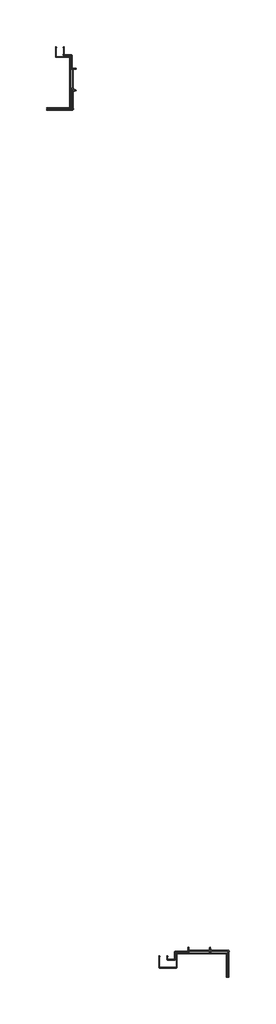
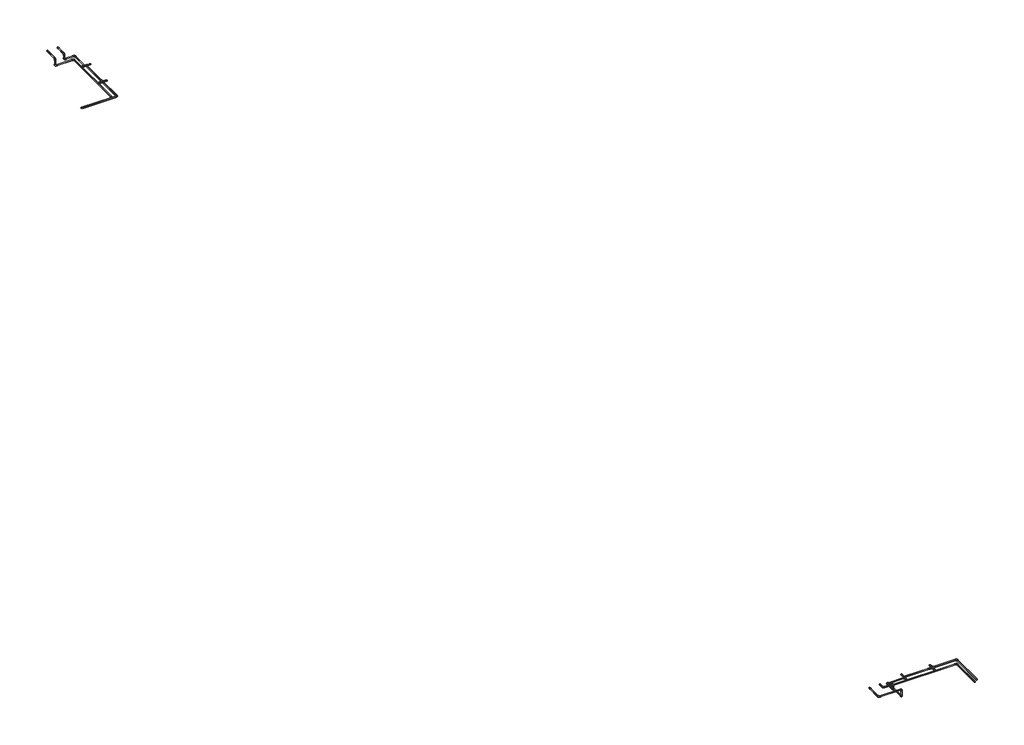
# One storey, incomplete: 34 pipe fittings, 34 pipe segments.
"""IFC4 building model written with IfcOpenShell, lengths in millimetres."""

from ifc_helpers import new_model, si_unit, point, frame, frame_2d, origin, place, context, project, spatial, circle_curve, trimmed, segment, composite_curve, outline, extrude, transform, mapped, element, save
from components import standard_92e3b147, standard_57727813, standard_102e5625, standard_b414d414, standard_2bd12d23

model = new_model("IFC4")

# Units and contexts
model_context = context("Model", 3, world=origin())
ifc_project = project(units=[si_unit("LENGTHUNIT", "METRE", prefix="MILLI")], contexts=[model_context])

# Site, building, storey
site = spatial("IfcSite", under=ifc_project)
building = spatial("IfcBuilding", under=site)
storey = spatial("IfcBuildingStorey", under=building, Name="Roof Tanks", Elevation=7700.0)

# Pipe fittings
placement = place(None, origin())
standard_shape = standard_92e3b147(model_context)
element("IfcPipeFitting", 1, ObjectType="M_Coupling Reducing - CPVC - Sch 40 : Standard", at=placement, inside=storey, context=model_context, shape_type="MappedRepresentation", body=[
    mapped(standard_shape, transform((-4202.028592, 16902.3726037, 7892.2), x_axis=(0.0, 1.0, 0.0), y_axis=(-1.0, 0.0, 0.0), z_axis=(0.0, 0.0, 1.0))),
])
element("IfcPipeFitting", 2, ObjectType="M_Coupling Reducing - CPVC - Sch 40 : Standard", at=placement, inside=storey, context=model_context, shape_type="MappedRepresentation", body=[
    mapped(standard_shape, transform((-4132.178592, 16832.5226037, 7892.2), x_axis=(1.0, 0.0, 0.0), y_axis=(0.0, 1.0, 0.0), z_axis=(0.0, 0.0, 1.0))),
])
element("IfcPipeFitting", 3, ObjectType="M_Coupling Reducing - CPVC - Sch 40 : Standard", at=placement, inside=storey, context=model_context, shape_type="MappedRepresentation", body=[
    mapped(standard_shape, transform((-4271.878592, 16832.5226037, 7892.2), x_axis=(-1.0, 0.0, 0.0), y_axis=(0.0, -1.0, 0.0), z_axis=(0.0, 0.0, 1.0))),
])
element("IfcPipeFitting", 4, ObjectType="M_Coupling Reducing - CPVC - Sch 40 : Standard", at=placement, inside=storey, context=model_context, shape_type="MappedRepresentation", body=[
    mapped(standard_shape, transform((3877.0804853, -34171.5743924, 7892.2), x_axis=(-1.0, 0.0, 0.0), y_axis=(0.0, -1.0, 0.0), z_axis=(0.0, 0.0, 1.0))),
])
element("IfcPipeFitting", 5, ObjectType="M_Coupling Reducing - CPVC - Sch 40 : Standard", at=placement, inside=storey, context=model_context, shape_type="MappedRepresentation", body=[
    mapped(standard_shape, transform((3946.9304853, -34101.7243924, 7892.2), x_axis=(0.0, 1.0, 0.0), y_axis=(-1.0, 0.0, 0.0), z_axis=(0.0, 0.0, 1.0))),
])
element("IfcPipeFitting", 6, ObjectType="M_Coupling Reducing - CPVC - Sch 40 : Standard", at=placement, inside=storey, context=model_context, shape_type="MappedRepresentation", body=[
    mapped(standard_shape, transform((3946.9304853, -34241.4243924, 7892.2), x_axis=(0.0, -1.0, 0.0), y_axis=(1.0, 0.0, 0.0), z_axis=(0.0, 0.0, 1.0))),
])
standard_2_shape = standard_57727813(model_context)
element("IfcPipeFitting", 7, ObjectType="M_Elbow - CPVC - Sch 40 : Standard", at=placement, inside=storey, context=model_context, shape_type="MappedRepresentation", body=[
    mapped(standard_2_shape, transform((-4202.028592, 15689.9865561, 7892.2), x_axis=(1.0, 0.0, 0.0), y_axis=(0.0, 1.0, 0.0), z_axis=(0.0, 0.0, 1.0))),
])
element("IfcPipeFitting", 8, ObjectType="M_Elbow - CPVC - Sch 40 : Standard", at=placement, inside=storey, context=model_context, shape_type="MappedRepresentation", body=[
    mapped(standard_2_shape, transform((5045.1617227, -34171.5743924, 7892.2), x_axis=(0.0, 1.0, 0.0), y_axis=(-1.0, 0.0, 0.0), z_axis=(0.0, 0.0, 1.0))),
])
standard_3_shape = standard_102e5625(model_context)
element("IfcPipeFitting", 9, ObjectType="M_Elbow - CPVC - Sch 40 : Standard", at=placement, inside=storey, context=model_context, shape_type="MappedRepresentation", body=[
    mapped(standard_3_shape, transform((-4258.8087037, 18123.3440498, 7892.2), x_axis=(1.0, 0.0, 0.0), y_axis=(0.0, 1.0, 0.0), z_axis=(0.0, 0.0, 1.0))),
])
element("IfcPipeFitting", 10, ObjectType="M_Elbow - CPVC - Sch 40 : Standard", at=placement, inside=storey, context=model_context, shape_type="MappedRepresentation", body=[
    mapped(standard_3_shape, transform((-4258.8087037, 18923.3440498, 7892.2), x_axis=(0.0, 1.0, 0.0), y_axis=(-1.0, 0.0, 0.0), z_axis=(0.0, 0.0, 1.0))),
])
element("IfcPipeFitting", 11, ObjectType="M_Elbow - CPVC - Sch 40 : Standard", at=placement, inside=storey, context=model_context, shape_type="MappedRepresentation", body=[
    mapped(standard_3_shape, transform((-4735.6029399, 18923.3440498, 7892.2), x_axis=(-1.0, 0.0, 0.0), y_axis=(0.0, 0.0, 1.0), z_axis=(0.0, 1.0, 0.0))),
])
element("IfcPipeFitting", 12, ObjectType="M_Elbow - CPVC - Sch 40 : Standard", at=placement, inside=storey, context=model_context, shape_type="MappedRepresentation", body=[
    mapped(standard_3_shape, transform((-4735.6029399, 18923.3440498, 8155.3), x_axis=(0.0, 0.0, 1.0), y_axis=(0.0, 1.0, 0.0), z_axis=(-1.0, 0.0, 0.0))),
])
element("IfcPipeFitting", 13, ObjectType="M_Elbow - CPVC - Sch 40 : Standard", at=placement, inside=storey, context=model_context, shape_type="MappedRepresentation", body=[
    mapped(standard_3_shape, transform((-4366.4029399, 18814.4000017, 7820.0), x_axis=(0.0, 1.0, 0.0), y_axis=(-1.0, 0.0, 0.0), z_axis=(0.0, 0.0, 1.0))),
])
element("IfcPipeFitting", 14, ObjectType="M_Elbow - CPVC - Sch 40 : Standard", at=placement, inside=storey, context=model_context, shape_type="MappedRepresentation", body=[
    mapped(standard_3_shape, transform((-4366.4029399, 15789.9865561, 7820.0), x_axis=(1.0, 0.0, 0.0), y_axis=(0.0, 1.0, 0.0), z_axis=(0.0, 0.0, 1.0))),
])
element("IfcPipeFitting", 15, ObjectType="M_Elbow - CPVC - Sch 40 : Standard", at=placement, inside=storey, context=model_context, shape_type="MappedRepresentation", body=[
    mapped(standard_3_shape, transform((-5206.4029399, 18814.4000017, 7820.0), x_axis=(-1.0, 0.0, 0.0), y_axis=(0.0, 0.0, 1.0), z_axis=(0.0, 1.0, 0.0))),
])
element("IfcPipeFitting", 16, ObjectType="M_Elbow - CPVC - Sch 40 : Standard", at=placement, inside=storey, context=model_context, shape_type="MappedRepresentation", body=[
    mapped(standard_3_shape, transform((-5206.4029399, 18814.4000017, 8155.3), x_axis=(0.0, 0.0, 1.0), y_axis=(0.0, 1.0, 0.0), z_axis=(-1.0, 0.0, 0.0))),
])
element("IfcPipeFitting", 17, ObjectType="M_Elbow - CPVC - Sch 40 : Standard", at=placement, inside=storey, context=model_context, shape_type="MappedRepresentation", body=[
    mapped(standard_3_shape, transform((-4202.028592, 18123.3440498, 7892.2), x_axis=(-1.0, 0.0, 0.0), y_axis=(0.0, -1.0, 0.0), z_axis=(0.0, 0.0, 1.0))),
])
element("IfcPipeFitting", 18, ObjectType="M_Elbow - CPVC - Sch 40 : Standard", at=placement, inside=storey, context=model_context, shape_type="MappedRepresentation", body=[
    mapped(standard_3_shape, transform((2656.1090392, -34228.354504, 7892.2), x_axis=(0.0, 1.0, 0.0), y_axis=(-1.0, 0.0, 0.0), z_axis=(0.0, 0.0, 1.0))),
])
element("IfcPipeFitting", 19, ObjectType="M_Elbow - CPVC - Sch 40 : Standard", at=placement, inside=storey, context=model_context, shape_type="MappedRepresentation", body=[
    mapped(standard_3_shape, transform((1856.1090392, -34228.354504, 7892.2), x_axis=(-1.0, 0.0, 0.0), y_axis=(0.0, -1.0, 0.0), z_axis=(0.0, 0.0, 1.0))),
])
element("IfcPipeFitting", 20, ObjectType="M_Elbow - CPVC - Sch 40 : Standard", at=placement, inside=storey, context=model_context, shape_type="MappedRepresentation", body=[
    mapped(standard_3_shape, transform((1856.1090392, -34705.1487402, 7892.2), x_axis=(0.0, -1.0, 0.0), y_axis=(0.0, 0.0, 1.0), z_axis=(-1.0, 0.0, 0.0))),
])
element("IfcPipeFitting", 21, ObjectType="M_Elbow - CPVC - Sch 40 : Standard", at=placement, inside=storey, context=model_context, shape_type="MappedRepresentation", body=[
    mapped(standard_3_shape, transform((1965.0530873, -35175.9487402, 7820.0), x_axis=(0.0, -1.0, 0.0), y_axis=(0.0, 0.0, 1.0), z_axis=(-1.0, 0.0, 0.0))),
])
element("IfcPipeFitting", 22, ObjectType="M_Elbow - CPVC - Sch 40 : Standard", at=placement, inside=storey, context=model_context, shape_type="MappedRepresentation", body=[
    mapped(standard_3_shape, transform((2656.1090392, -34171.5743924, 7892.2), x_axis=(0.0, -1.0, 0.0), y_axis=(1.0, 0.0, 0.0), z_axis=(0.0, 0.0, 1.0))),
])
element("IfcPipeFitting", 23, ObjectType="M_Elbow - CPVC - Sch 40 : Standard", at=placement, inside=storey, context=model_context, shape_type="MappedRepresentation", body=[
    mapped(standard_3_shape, transform((1856.1090392, -34705.1487402, 8155.3), x_axis=(0.0, 0.0, 1.0), y_axis=(-1.0, 0.0, 0.0), z_axis=(0.0, -1.0, 0.0))),
])
element("IfcPipeFitting", 24, ObjectType="M_Elbow - CPVC - Sch 40 : Standard", at=placement, inside=storey, context=model_context, shape_type="MappedRepresentation", body=[
    mapped(standard_3_shape, transform((1403.5810929, -34705.1487402, 8155.3), x_axis=(0.0, -1.0, 0.0), y_axis=(1.0, 0.0, 0.0), z_axis=(0.0, 0.0, 1.0))),
])
element("IfcPipeFitting", 25, ObjectType="M_Elbow - CPVC - Sch 40 : Standard", at=placement, inside=storey, context=model_context, shape_type="MappedRepresentation", body=[
    mapped(standard_3_shape, transform((932.7810929, -35175.9487402, 8155.3), x_axis=(0.0, -1.0, 0.0), y_axis=(1.0, 0.0, 0.0), z_axis=(0.0, 0.0, 1.0))),
])
element("IfcPipeFitting", 26, ObjectType="M_Elbow - CPVC - Sch 40 : Standard", at=placement, inside=storey, context=model_context, shape_type="MappedRepresentation", body=[
    mapped(standard_3_shape, transform((1965.0530873, -35175.9487402, 8155.3), x_axis=(0.0, 0.0, 1.0), y_axis=(-1.0, 0.0, 0.0), z_axis=(0.0, -1.0, 0.0))),
])
element("IfcPipeFitting", 27, ObjectType="M_Elbow - CPVC - Sch 40 : Standard", at=placement, inside=storey, context=model_context, shape_type="MappedRepresentation", body=[
    mapped(standard_3_shape, transform((1965.0530873, -34335.9487402, 7820.0), x_axis=(-1.0, 0.0, 0.0), y_axis=(0.0, -1.0, 0.0), z_axis=(0.0, 0.0, 1.0))),
])
element("IfcPipeFitting", 28, ObjectType="M_Elbow - CPVC - Sch 40 : Standard", at=placement, inside=storey, context=model_context, shape_type="MappedRepresentation", body=[
    mapped(standard_3_shape, transform((4953.4766944, -34335.9487402, 7820.0), x_axis=(0.0, 1.0, 0.0), y_axis=(-1.0, 0.0, 0.0), z_axis=(0.0, 0.0, 1.0))),
])
standard_4_shape = standard_b414d414(model_context)
element("IfcPipeFitting", 29, ObjectType="M_Coupling Reducing - CPVC - Sch 40 : Standard", at=placement, inside=storey, context=model_context, shape_type="MappedRepresentation", body=[
    mapped(standard_4_shape, transform((-4735.6029399, 19434.4000017, 8155.3), x_axis=(0.0, -1.0, 0.0), y_axis=(1.0, 0.0, 0.0), z_axis=(0.0, 0.0, 1.0))),
])
element("IfcPipeFitting", 30, ObjectType="M_Coupling Reducing - CPVC - Sch 40 : Standard", at=placement, inside=storey, context=model_context, shape_type="MappedRepresentation", body=[
    mapped(standard_4_shape, transform((1403.5810929, -34456.6999943, 8155.3), x_axis=(0.0, -1.0, 0.0), y_axis=(1.0, 0.0, 0.0), z_axis=(0.0, 0.0, 1.0))),
])
element("IfcPipeFitting", 31, ObjectType="M_Coupling Reducing - CPVC - Sch 40 : Standard", at=placement, inside=storey, context=model_context, shape_type="MappedRepresentation", body=[
    mapped(standard_4_shape, transform((932.7810929, -34456.6999943, 8155.3), x_axis=(0.0, -1.0, 0.0), y_axis=(1.0, 0.0, 0.0), z_axis=(0.0, 0.0, 1.0))),
])
element("IfcPipeFitting", 32, ObjectType="M_Coupling Reducing - CPVC - Sch 40 : Standard", at=placement, inside=storey, context=model_context, shape_type="MappedRepresentation", body=[
    mapped(standard_4_shape, transform((-5206.4029399, 19434.4000017, 8155.3), x_axis=(0.0, -1.0, 0.0), y_axis=(1.0, 0.0, 0.0), z_axis=(0.0, 0.0, 1.0))),
])
standard_5_shape = standard_2bd12d23(model_context)
element("IfcPipeFitting", 33, ObjectType="M_Cross - CPVC - Sch 40 : Standard", at=placement, inside=storey, context=model_context, shape_type="MappedRepresentation", body=[
    mapped(standard_5_shape, transform((-4202.028592, 16832.5226037, 7892.2), x_axis=(0.0, -1.0, 0.0), y_axis=(-1.0, 0.0, 0.0), z_axis=(0.0, 0.0, -1.0))),
])
element("IfcPipeFitting", 34, ObjectType="M_Cross - CPVC - Sch 40 : Standard", at=placement, inside=storey, context=model_context, shape_type="MappedRepresentation", body=[
    mapped(standard_5_shape, transform((3946.9304853, -34171.5743924, 7892.2), x_axis=(1.0, 0.0, 0.0), y_axis=(0.0, -1.0, 0.0), z_axis=(0.0, 0.0, -1.0))),
])

# Pipe segments
element("IfcPipeSegment", 35, ObjectType="CPVC", at=placement, inside=storey, context=model_context, shape_type="SweptSolid", body=[
    extrude(outline(composite_curve([segment(trimmed(circle_curve(frame_2d((15789.9865561, 7820.0)), 24.13), [point((15814.1165561, 7820.0))], [point((15789.9865561, 7795.87))], False, "CARTESIAN"), True, "CONTINUOUS"), segment(trimmed(circle_curve(frame_2d((15789.9865561, 7820.0)), 24.13), [point((15789.9865561, 7795.87))], [point((15765.8565561, 7820.0))], False, "CARTESIAN"), True, "CONTINUOUS"), segment(trimmed(circle_curve(frame_2d((15789.9865561, 7820.0)), 24.13), [point((15765.8565561, 7820.0))], [point((15789.9865561, 7844.13))], False, "CARTESIAN"), True, "CONTINUOUS"), segment(trimmed(circle_curve(frame_2d((15789.9865561, 7820.0)), 24.13), [point((15789.9865561, 7844.13))], [point((15814.1165561, 7820.0))], False, "CARTESIAN"), True, "CONTINUOUS")], self_intersect=False)), frame((-5768.2839899, 0.0, 0.0), z_axis=(1.0, 0.0, 0.0), x_axis=(0.0, 1.0, 0.0)), (0.0, 0.0, 1.0), 1339.1621),
])
element("IfcPipeSegment", 36, ObjectType="CPVC", at=placement, inside=storey, context=model_context, shape_type="SweptSolid", body=[
    extrude(outline(composite_curve([segment(trimmed(circle_curve(frame_2d((18123.3440498, 7892.2)), 24.13), [point((18099.2140498, 7892.2))], [point((18123.3440498, 7916.33))], False, "CARTESIAN"), True, "CONTINUOUS"), segment(trimmed(circle_curve(frame_2d((18123.3440498, 7892.2)), 24.13), [point((18123.3440498, 7916.33))], [point((18147.4740498, 7892.2))], False, "CARTESIAN"), True, "CONTINUOUS"), segment(trimmed(circle_curve(frame_2d((18123.3440498, 7892.2)), 24.13), [point((18147.4740498, 7892.2))], [point((18123.3440498, 7868.07))], False, "CARTESIAN"), True, "CONTINUOUS"), segment(trimmed(circle_curve(frame_2d((18123.3440498, 7892.2)), 24.13), [point((18123.3440498, 7868.07))], [point((18099.2140498, 7892.2))], False, "CARTESIAN"), True, "CONTINUOUS")], self_intersect=False)), frame((-4388.8086982, 0.0, 0.0), z_axis=(1.0, 0.0, 0.0), x_axis=(0.0, 1.0, 0.0)), (0.0, 0.0, 1.0), 67.2810445),
])
element("IfcPipeSegment", 37, ObjectType="CPVC", at=placement, inside=storey, context=model_context, shape_type="SweptSolid", body=[
    extrude(outline(composite_curve([segment(trimmed(circle_curve(frame_2d((7892.2, -4258.8087037)), 24.13), [point((7892.2, -4234.6787037))], [point((7916.33, -4258.8087037))], False, "CARTESIAN"), True, "CONTINUOUS"), segment(trimmed(circle_curve(frame_2d((7892.2, -4258.8087037)), 24.13), [point((7916.33, -4258.8087037))], [point((7892.2, -4282.9387037))], False, "CARTESIAN"), True, "CONTINUOUS"), segment(trimmed(circle_curve(frame_2d((7892.2, -4258.8087037)), 24.13), [point((7892.2, -4282.9387037))], [point((7868.07, -4258.8087037))], False, "CARTESIAN"), True, "CONTINUOUS"), segment(trimmed(circle_curve(frame_2d((7892.2, -4258.8087037)), 24.13), [point((7868.07, -4258.8087037))], [point((7892.2, -4234.6787037))], False, "CARTESIAN"), True, "CONTINUOUS")], self_intersect=False)), frame((0.0, 18186.0629998, 0.0), z_axis=(0.0, 1.0, 0.0), x_axis=(0.0, 0.0, 1.0)), (0.0, 0.0, 1.0), 674.5621),
])
element("IfcPipeSegment", 38, ObjectType="CPVC", at=placement, inside=storey, context=model_context, shape_type="SweptSolid", body=[
    extrude(outline(composite_curve([segment(trimmed(circle_curve(frame_2d((18923.3440498, 7892.2)), 24.13), [point((18947.4740498, 7892.2))], [point((18923.3440498, 7868.07))], False, "CARTESIAN"), True, "CONTINUOUS"), segment(trimmed(circle_curve(frame_2d((18923.3440498, 7892.2)), 24.13), [point((18923.3440498, 7868.07))], [point((18899.2140498, 7892.2))], False, "CARTESIAN"), True, "CONTINUOUS"), segment(trimmed(circle_curve(frame_2d((18923.3440498, 7892.2)), 24.13), [point((18899.2140498, 7892.2))], [point((18923.3440498, 7916.33))], False, "CARTESIAN"), True, "CONTINUOUS"), segment(trimmed(circle_curve(frame_2d((18923.3440498, 7892.2)), 24.13), [point((18923.3440498, 7916.33))], [point((18947.4740498, 7892.2))], False, "CARTESIAN"), True, "CONTINUOUS")], self_intersect=False)), frame((-4672.8839899, 0.0, 0.0), z_axis=(1.0, 0.0, 0.0), x_axis=(0.0, 1.0, 0.0)), (0.0, 0.0, 1.0), 351.3563362),
])
element("IfcPipeSegment", 39, ObjectType="CPVC", at=placement, inside=storey, context=model_context, shape_type="SweptSolid", body=[
    extrude(outline(composite_curve([segment(trimmed(circle_curve(frame_2d((8155.3, -4735.6029399)), 24.13), [point((8155.3, -4711.4729399))], [point((8179.43, -4735.6029399))], False, "CARTESIAN"), True, "CONTINUOUS"), segment(trimmed(circle_curve(frame_2d((8155.3, -4735.6029399)), 24.13), [point((8179.43, -4735.6029399))], [point((8155.3, -4759.7329399))], False, "CARTESIAN"), True, "CONTINUOUS"), segment(trimmed(circle_curve(frame_2d((8155.3, -4735.6029399)), 24.13), [point((8155.3, -4759.7329399))], [point((8131.17, -4735.6029399))], False, "CARTESIAN"), True, "CONTINUOUS"), segment(trimmed(circle_curve(frame_2d((8155.3, -4735.6029399)), 24.13), [point((8131.17, -4735.6029399))], [point((8155.3, -4711.4729399))], False, "CARTESIAN"), True, "CONTINUOUS")], self_intersect=False)), frame((0.0, 18986.0629998, 0.0), z_axis=(0.0, 1.0, 0.0), x_axis=(0.0, 0.0, 1.0)), (0.0, 0.0, 1.0), 370.5982519),
])
element("IfcPipeSegment", 40, ObjectType="CPVC", at=placement, inside=storey, context=model_context, shape_type="SweptSolid", body=[
    extrude(outline(composite_curve([segment(trimmed(circle_curve(frame_2d((-4735.6029399, 18923.3440498)), 24.13), [point((-4759.7329399, 18923.3440498))], [point((-4735.6029399, 18947.4740498))], False, "CARTESIAN"), True, "CONTINUOUS"), segment(trimmed(circle_curve(frame_2d((-4735.6029399, 18923.3440498)), 24.13), [point((-4735.6029399, 18947.4740498))], [point((-4711.4729399, 18923.3440498))], False, "CARTESIAN"), True, "CONTINUOUS"), segment(trimmed(circle_curve(frame_2d((-4735.6029399, 18923.3440498)), 24.13), [point((-4711.4729399, 18923.3440498))], [point((-4735.6029399, 18899.2140498))], False, "CARTESIAN"), True, "CONTINUOUS"), segment(trimmed(circle_curve(frame_2d((-4735.6029399, 18923.3440498)), 24.13), [point((-4735.6029399, 18899.2140498))], [point((-4759.7329399, 18923.3440498))], False, "CARTESIAN"), True, "CONTINUOUS")], self_intersect=False)), frame((0.0, 0.0, 7954.91895), z_axis=(0.0, 0.0, 1.0), x_axis=(1.0, 0.0, 0.0)), (0.0, 0.0, 1.0), 137.6621),
])
element("IfcPipeSegment", 41, ObjectType="CPVC", at=placement, inside=storey, context=model_context, shape_type="SweptSolid", body=[
    extrude(outline(composite_curve([segment(trimmed(circle_curve(frame_2d((8155.3, -5206.4029399)), 24.13), [point((8155.3, -5182.2729399))], [point((8179.43, -5206.4029399))], False, "CARTESIAN"), True, "CONTINUOUS"), segment(trimmed(circle_curve(frame_2d((8155.3, -5206.4029399)), 24.13), [point((8179.43, -5206.4029399))], [point((8155.3, -5230.5329399))], False, "CARTESIAN"), True, "CONTINUOUS"), segment(trimmed(circle_curve(frame_2d((8155.3, -5206.4029399)), 24.13), [point((8155.3, -5230.5329399))], [point((8131.17, -5206.4029399))], False, "CARTESIAN"), True, "CONTINUOUS"), segment(trimmed(circle_curve(frame_2d((8155.3, -5206.4029399)), 24.13), [point((8131.17, -5206.4029399))], [point((8155.3, -5182.2729399))], False, "CARTESIAN"), True, "CONTINUOUS")], self_intersect=False)), frame((0.0, 18877.1189517, 0.0), z_axis=(0.0, 1.0, 0.0), x_axis=(0.0, 0.0, 1.0)), (0.0, 0.0, 1.0), 479.5423),
])
element("IfcPipeSegment", 42, ObjectType="CPVC", at=placement, inside=storey, context=model_context, shape_type="SweptSolid", body=[
    extrude(outline(composite_curve([segment(trimmed(circle_curve(frame_2d((18814.4000017, 7820.0)), 24.13), [point((18790.2700017, 7820.0))], [point((18814.4000017, 7844.13))], False, "CARTESIAN"), True, "CONTINUOUS"), segment(trimmed(circle_curve(frame_2d((18814.4000017, 7820.0)), 24.13), [point((18814.4000017, 7844.13))], [point((18838.5300017, 7820.0))], False, "CARTESIAN"), True, "CONTINUOUS"), segment(trimmed(circle_curve(frame_2d((18814.4000017, 7820.0)), 24.13), [point((18838.5300017, 7820.0))], [point((18814.4000017, 7795.87))], False, "CARTESIAN"), True, "CONTINUOUS"), segment(trimmed(circle_curve(frame_2d((18814.4000017, 7820.0)), 24.13), [point((18814.4000017, 7795.87))], [point((18790.2700017, 7820.0))], False, "CARTESIAN"), True, "CONTINUOUS")], self_intersect=False)), frame((-5143.6839899, 0.0, 0.0), z_axis=(1.0, 0.0, 0.0), x_axis=(0.0, 1.0, 0.0)), (0.0, 0.0, 1.0), 714.5621),
])
element("IfcPipeSegment", 43, ObjectType="CPVC", at=placement, inside=storey, context=model_context, shape_type="SweptSolid", body=[
    extrude(outline(composite_curve([segment(trimmed(circle_curve(frame_2d((7820.0, -4366.4029399)), 24.13), [point((7820.0, -4390.5329399))], [point((7795.87, -4366.4029399))], False, "CARTESIAN"), True, "CONTINUOUS"), segment(trimmed(circle_curve(frame_2d((7820.0, -4366.4029399)), 24.13), [point((7795.87, -4366.4029399))], [point((7820.0, -4342.2729399))], False, "CARTESIAN"), True, "CONTINUOUS"), segment(trimmed(circle_curve(frame_2d((7820.0, -4366.4029399)), 24.13), [point((7820.0, -4342.2729399))], [point((7844.13, -4366.4029399))], False, "CARTESIAN"), True, "CONTINUOUS"), segment(trimmed(circle_curve(frame_2d((7820.0, -4366.4029399)), 24.13), [point((7844.13, -4366.4029399))], [point((7820.0, -4390.5329399))], False, "CARTESIAN"), True, "CONTINUOUS")], self_intersect=False)), frame((0.0, 15852.7055061, 0.0), z_axis=(0.0, 1.0, 0.0), x_axis=(0.0, 0.0, 1.0)), (0.0, 0.0, 1.0), 2898.9755456),
])
element("IfcPipeSegment", 44, ObjectType="CPVC", at=placement, inside=storey, context=model_context, shape_type="SweptSolid", body=[
    extrude(outline(composite_curve([segment(trimmed(circle_curve(frame_2d((-5206.4029399, 18814.4000017)), 24.13), [point((-5230.5329399, 18814.4000017))], [point((-5206.4029399, 18838.5300017))], False, "CARTESIAN"), True, "CONTINUOUS"), segment(trimmed(circle_curve(frame_2d((-5206.4029399, 18814.4000017)), 24.13), [point((-5206.4029399, 18838.5300017))], [point((-5182.2729399, 18814.4000017))], False, "CARTESIAN"), True, "CONTINUOUS"), segment(trimmed(circle_curve(frame_2d((-5206.4029399, 18814.4000017)), 24.13), [point((-5182.2729399, 18814.4000017))], [point((-5206.4029399, 18790.2700017))], False, "CARTESIAN"), True, "CONTINUOUS"), segment(trimmed(circle_curve(frame_2d((-5206.4029399, 18814.4000017)), 24.13), [point((-5206.4029399, 18790.2700017))], [point((-5230.5329399, 18814.4000017))], False, "CARTESIAN"), True, "CONTINUOUS")], self_intersect=False)), frame((0.0, 0.0, 7882.71895), z_axis=(0.0, 0.0, 1.0), x_axis=(1.0, 0.0, 0.0)), (0.0, 0.0, 1.0), 209.8621),
])
element("IfcPipeSegment", 45, ObjectType="CPVC", at=placement, inside=storey, context=model_context, shape_type="SweptSolid", body=[
    extrude(outline(composite_curve([segment(trimmed(circle_curve(frame_2d((18123.3440498, 7892.2)), 24.13), [point((18147.4740498, 7892.2))], [point((18123.3440498, 7868.07))], False, "CARTESIAN"), True, "CONTINUOUS"), segment(trimmed(circle_curve(frame_2d((18123.3440498, 7892.2)), 24.13), [point((18123.3440498, 7868.07))], [point((18099.2140498, 7892.2))], False, "CARTESIAN"), True, "CONTINUOUS"), segment(trimmed(circle_curve(frame_2d((18123.3440498, 7892.2)), 24.13), [point((18099.2140498, 7892.2))], [point((18123.3440498, 7916.33))], False, "CARTESIAN"), True, "CONTINUOUS"), segment(trimmed(circle_curve(frame_2d((18123.3440498, 7892.2)), 24.13), [point((18123.3440498, 7916.33))], [point((18147.4740498, 7892.2))], False, "CARTESIAN"), True, "CONTINUOUS")], self_intersect=False)), frame((-4139.309642, 0.0, 0.0), z_axis=(1.0, 0.0, 0.0), x_axis=(0.0, 1.0, 0.0)), (0.0, 0.0, 1.0), 137.2810437),
])
element("IfcPipeSegment", 46, ObjectType="CPVC", at=placement, inside=storey, context=model_context, shape_type="SweptSolid", body=[
    extrude(outline(composite_curve([segment(trimmed(circle_curve(frame_2d((7892.2, -4202.028592)), 30.1625), [point((7892.2, -4232.191092))], [point((7862.0375, -4202.028592))], False, "CARTESIAN"), True, "CONTINUOUS"), segment(trimmed(circle_curve(frame_2d((7892.2, -4202.028592)), 30.1625), [point((7862.0375, -4202.028592))], [point((7892.2, -4171.866092))], False, "CARTESIAN"), True, "CONTINUOUS"), segment(trimmed(circle_curve(frame_2d((7892.2, -4202.028592)), 30.1625), [point((7892.2, -4171.866092))], [point((7922.3625, -4202.028592))], False, "CARTESIAN"), True, "CONTINUOUS"), segment(trimmed(circle_curve(frame_2d((7892.2, -4202.028592)), 30.1625), [point((7922.3625, -4202.028592))], [point((7892.2, -4232.191092))], False, "CARTESIAN"), True, "CONTINUOUS")], self_intersect=False)), frame((0.0, 15754.2803061, 0.0), z_axis=(0.0, 1.0, 0.0), x_axis=(0.0, 0.0, 1.0)), (0.0, 0.0, 1.0), 1008.3922976),
])
element("IfcPipeSegment", 47, ObjectType="CPVC", at=placement, inside=storey, context=model_context, shape_type="SweptSolid", body=[
    extrude(outline(composite_curve([segment(trimmed(circle_curve(frame_2d((15689.9865561, 7892.2)), 30.1625), [point((15659.8240561, 7892.2))], [point((15689.9865561, 7922.3625))], False, "CARTESIAN"), True, "CONTINUOUS"), segment(trimmed(circle_curve(frame_2d((15689.9865561, 7892.2)), 30.1625), [point((15689.9865561, 7922.3625))], [point((15720.1490561, 7892.2))], False, "CARTESIAN"), True, "CONTINUOUS"), segment(trimmed(circle_curve(frame_2d((15689.9865561, 7892.2)), 30.1625), [point((15720.1490561, 7892.2))], [point((15689.9865561, 7862.0375))], False, "CARTESIAN"), True, "CONTINUOUS"), segment(trimmed(circle_curve(frame_2d((15689.9865561, 7892.2)), 30.1625), [point((15689.9865561, 7862.0375))], [point((15659.8240561, 7892.2))], False, "CARTESIAN"), True, "CONTINUOUS")], self_intersect=False)), frame((-5766.7091899, 0.0, 0.0), z_axis=(1.0, 0.0, 0.0), x_axis=(0.0, 1.0, 0.0)), (0.0, 0.0, 1.0), 1500.3868478),
])
element("IfcPipeSegment", 48, ObjectType="CPVC", at=placement, inside=storey, context=model_context, shape_type="SweptSolid", body=[
    extrude(outline(composite_curve([segment(trimmed(circle_curve(frame_2d((16832.5226037, 7892.2)), 24.13), [point((16808.3926037, 7892.2))], [point((16832.5226037, 7916.33))], False, "CARTESIAN"), True, "CONTINUOUS"), segment(trimmed(circle_curve(frame_2d((16832.5226037, 7892.2)), 24.13), [point((16832.5226037, 7916.33))], [point((16856.6526037, 7892.2))], False, "CARTESIAN"), True, "CONTINUOUS"), segment(trimmed(circle_curve(frame_2d((16832.5226037, 7892.2)), 24.13), [point((16856.6526037, 7892.2))], [point((16832.5226037, 7868.07))], False, "CARTESIAN"), True, "CONTINUOUS"), segment(trimmed(circle_curve(frame_2d((16832.5226037, 7892.2)), 24.13), [point((16832.5226037, 7868.07))], [point((16808.3926037, 7892.2))], False, "CARTESIAN"), True, "CONTINUOUS")], self_intersect=False)), frame((-4040.759842, 0.0, 0.0), z_axis=(1.0, 0.0, 0.0), x_axis=(0.0, 1.0, 0.0)), (0.0, 0.0, 1.0), 38.7312437),
])
element("IfcPipeSegment", 49, ObjectType="CPVC", at=placement, inside=storey, context=model_context, shape_type="SweptSolid", body=[
    extrude(outline(composite_curve([segment(trimmed(circle_curve(frame_2d((7892.2, -4202.028592)), 24.13), [point((7892.2, -4226.158592))], [point((7868.07, -4202.028592))], False, "CARTESIAN"), True, "CONTINUOUS"), segment(trimmed(circle_curve(frame_2d((7892.2, -4202.028592)), 24.13), [point((7868.07, -4202.028592))], [point((7892.2, -4177.898592))], False, "CARTESIAN"), True, "CONTINUOUS"), segment(trimmed(circle_curve(frame_2d((7892.2, -4202.028592)), 24.13), [point((7892.2, -4177.898592))], [point((7916.33, -4202.028592))], False, "CARTESIAN"), True, "CONTINUOUS"), segment(trimmed(circle_curve(frame_2d((7892.2, -4202.028592)), 24.13), [point((7916.33, -4202.028592))], [point((7892.2, -4226.158592))], False, "CARTESIAN"), True, "CONTINUOUS")], self_intersect=False)), frame((0.0, 16993.7913537, 0.0), z_axis=(0.0, 1.0, 0.0), x_axis=(0.0, 0.0, 1.0)), (0.0, 0.0, 1.0), 1066.8337461),
])
element("IfcPipeSegment", 50, ObjectType="CPVC", at=placement, inside=storey, context=model_context, shape_type="SweptSolid", body=[
    extrude(outline(composite_curve([segment(trimmed(circle_curve(frame_2d((16832.5226037, 7892.2)), 24.13), [point((16856.6526037, 7892.2))], [point((16832.5226037, 7868.07))], False, "CARTESIAN"), True, "CONTINUOUS"), segment(trimmed(circle_curve(frame_2d((16832.5226037, 7892.2)), 24.13), [point((16832.5226037, 7868.07))], [point((16808.3926037, 7892.2))], False, "CARTESIAN"), True, "CONTINUOUS"), segment(trimmed(circle_curve(frame_2d((16832.5226037, 7892.2)), 24.13), [point((16808.3926037, 7892.2))], [point((16832.5226037, 7916.33))], False, "CARTESIAN"), True, "CONTINUOUS"), segment(trimmed(circle_curve(frame_2d((16832.5226037, 7892.2)), 24.13), [point((16832.5226037, 7916.33))], [point((16856.6526037, 7892.2))], False, "CARTESIAN"), True, "CONTINUOUS")], self_intersect=False)), frame((-4388.8086982, 0.0, 0.0), z_axis=(1.0, 0.0, 0.0), x_axis=(0.0, 1.0, 0.0)), (0.0, 0.0, 1.0), 25.5113561),
])
element("IfcPipeSegment", 51, ObjectType="CPVC", at=placement, inside=storey, context=model_context, shape_type="SweptSolid", body=[
    extrude(outline(composite_curve([segment(trimmed(circle_curve(frame_2d((7892.2, 2656.1090392)), 24.13), [point((7892.2, 2680.2390392))], [point((7916.33, 2656.1090392))], False, "CARTESIAN"), True, "CONTINUOUS"), segment(trimmed(circle_curve(frame_2d((7892.2, 2656.1090392)), 24.13), [point((7916.33, 2656.1090392))], [point((7892.2, 2631.9790392))], False, "CARTESIAN"), True, "CONTINUOUS"), segment(trimmed(circle_curve(frame_2d((7892.2, 2656.1090392)), 24.13), [point((7892.2, 2631.9790392))], [point((7868.07, 2656.1090392))], False, "CARTESIAN"), True, "CONTINUOUS"), segment(trimmed(circle_curve(frame_2d((7892.2, 2656.1090392)), 24.13), [point((7868.07, 2656.1090392))], [point((7892.2, 2680.2390392))], False, "CARTESIAN"), True, "CONTINUOUS")], self_intersect=False)), frame((0.0, -34358.3544985, 0.0), z_axis=(0.0, 1.0, 0.0), x_axis=(0.0, 0.0, 1.0)), (0.0, 0.0, 1.0), 67.2810445),
])
element("IfcPipeSegment", 52, ObjectType="CPVC", at=placement, inside=storey, context=model_context, shape_type="SweptSolid", body=[
    extrude(outline(composite_curve([segment(trimmed(circle_curve(frame_2d((-34228.354504, 7892.2)), 24.13), [point((-34204.224504, 7892.2))], [point((-34228.354504, 7868.07))], False, "CARTESIAN"), True, "CONTINUOUS"), segment(trimmed(circle_curve(frame_2d((-34228.354504, 7892.2)), 24.13), [point((-34228.354504, 7868.07))], [point((-34252.484504, 7892.2))], False, "CARTESIAN"), True, "CONTINUOUS"), segment(trimmed(circle_curve(frame_2d((-34228.354504, 7892.2)), 24.13), [point((-34252.484504, 7892.2))], [point((-34228.354504, 7916.33))], False, "CARTESIAN"), True, "CONTINUOUS"), segment(trimmed(circle_curve(frame_2d((-34228.354504, 7892.2)), 24.13), [point((-34228.354504, 7916.33))], [point((-34204.224504, 7892.2))], False, "CARTESIAN"), True, "CONTINUOUS")], self_intersect=False)), frame((1918.8279892, 0.0, 0.0), z_axis=(1.0, 0.0, 0.0), x_axis=(0.0, 1.0, 0.0)), (0.0, 0.0, 1.0), 674.5621),
])
element("IfcPipeSegment", 53, ObjectType="CPVC", at=placement, inside=storey, context=model_context, shape_type="SweptSolid", body=[
    extrude(outline(composite_curve([segment(trimmed(circle_curve(frame_2d((7892.2, 1856.1090392)), 24.13), [point((7892.2, 1831.9790392))], [point((7868.07, 1856.1090392))], False, "CARTESIAN"), True, "CONTINUOUS"), segment(trimmed(circle_curve(frame_2d((7892.2, 1856.1090392)), 24.13), [point((7868.07, 1856.1090392))], [point((7892.2, 1880.2390392))], False, "CARTESIAN"), True, "CONTINUOUS"), segment(trimmed(circle_curve(frame_2d((7892.2, 1856.1090392)), 24.13), [point((7892.2, 1880.2390392))], [point((7916.33, 1856.1090392))], False, "CARTESIAN"), True, "CONTINUOUS"), segment(trimmed(circle_curve(frame_2d((7892.2, 1856.1090392)), 24.13), [point((7916.33, 1856.1090392))], [point((7892.2, 1831.9790392))], False, "CARTESIAN"), True, "CONTINUOUS")], self_intersect=False)), frame((0.0, -34642.4297902, 0.0), z_axis=(0.0, 1.0, 0.0), x_axis=(0.0, 0.0, 1.0)), (0.0, 0.0, 1.0), 351.3563362),
])
element("IfcPipeSegment", 54, ObjectType="CPVC", at=placement, inside=storey, context=model_context, shape_type="SweptSolid", body=[
    extrude(outline(composite_curve([segment(trimmed(circle_curve(frame_2d((1856.1090392, -34705.1487402)), 24.13), [point((1831.9790392, -34705.1487402))], [point((1856.1090392, -34681.0187402))], False, "CARTESIAN"), True, "CONTINUOUS"), segment(trimmed(circle_curve(frame_2d((1856.1090392, -34705.1487402)), 24.13), [point((1856.1090392, -34681.0187402))], [point((1880.2390392, -34705.1487402))], False, "CARTESIAN"), True, "CONTINUOUS"), segment(trimmed(circle_curve(frame_2d((1856.1090392, -34705.1487402)), 24.13), [point((1880.2390392, -34705.1487402))], [point((1856.1090392, -34729.2787402))], False, "CARTESIAN"), True, "CONTINUOUS"), segment(trimmed(circle_curve(frame_2d((1856.1090392, -34705.1487402)), 24.13), [point((1856.1090392, -34729.2787402))], [point((1831.9790392, -34705.1487402))], False, "CARTESIAN"), True, "CONTINUOUS")], self_intersect=False)), frame((0.0, 0.0, 7954.91895), z_axis=(0.0, 0.0, 1.0), x_axis=(1.0, 0.0, 0.0)), (0.0, 0.0, 1.0), 137.6621),
])
element("IfcPipeSegment", 55, ObjectType="CPVC", at=placement, inside=storey, context=model_context, shape_type="SweptSolid", body=[
    extrude(outline(composite_curve([segment(trimmed(circle_curve(frame_2d((7820.0, 1965.0530873)), 24.13), [point((7820.0, 1989.1830873))], [point((7844.13, 1965.0530873))], False, "CARTESIAN"), True, "CONTINUOUS"), segment(trimmed(circle_curve(frame_2d((7820.0, 1965.0530873)), 24.13), [point((7844.13, 1965.0530873))], [point((7820.0, 1940.9230873))], False, "CARTESIAN"), True, "CONTINUOUS"), segment(trimmed(circle_curve(frame_2d((7820.0, 1965.0530873)), 24.13), [point((7820.0, 1940.9230873))], [point((7795.87, 1965.0530873))], False, "CARTESIAN"), True, "CONTINUOUS"), segment(trimmed(circle_curve(frame_2d((7820.0, 1965.0530873)), 24.13), [point((7795.87, 1965.0530873))], [point((7820.0, 1989.1830873))], False, "CARTESIAN"), True, "CONTINUOUS")], self_intersect=False)), frame((0.0, -35113.2297902, 0.0), z_axis=(0.0, 1.0, 0.0), x_axis=(0.0, 0.0, 1.0)), (0.0, 0.0, 1.0), 714.5621),
])
element("IfcPipeSegment", 56, ObjectType="CPVC", at=placement, inside=storey, context=model_context, shape_type="SweptSolid", body=[
    extrude(outline(composite_curve([segment(trimmed(circle_curve(frame_2d((1965.0530873, -35175.9487402)), 24.13), [point((1940.9230873, -35175.9487402))], [point((1965.0530873, -35151.8187402))], False, "CARTESIAN"), True, "CONTINUOUS"), segment(trimmed(circle_curve(frame_2d((1965.0530873, -35175.9487402)), 24.13), [point((1965.0530873, -35151.8187402))], [point((1989.1830873, -35175.9487402))], False, "CARTESIAN"), True, "CONTINUOUS"), segment(trimmed(circle_curve(frame_2d((1965.0530873, -35175.9487402)), 24.13), [point((1989.1830873, -35175.9487402))], [point((1965.0530873, -35200.0787402))], False, "CARTESIAN"), True, "CONTINUOUS"), segment(trimmed(circle_curve(frame_2d((1965.0530873, -35175.9487402)), 24.13), [point((1965.0530873, -35200.0787402))], [point((1940.9230873, -35175.9487402))], False, "CARTESIAN"), True, "CONTINUOUS")], self_intersect=False)), frame((0.0, 0.0, 7882.71895), z_axis=(0.0, 0.0, 1.0), x_axis=(1.0, 0.0, 0.0)), (0.0, 0.0, 1.0), 209.8621),
])
element("IfcPipeSegment", 57, ObjectType="CPVC", at=placement, inside=storey, context=model_context, shape_type="SweptSolid", body=[
    extrude(outline(composite_curve([segment(trimmed(circle_curve(frame_2d((7892.2, 2656.1090392)), 24.13), [point((7892.2, 2631.9790392))], [point((7868.07, 2656.1090392))], False, "CARTESIAN"), True, "CONTINUOUS"), segment(trimmed(circle_curve(frame_2d((7892.2, 2656.1090392)), 24.13), [point((7868.07, 2656.1090392))], [point((7892.2, 2680.2390392))], False, "CARTESIAN"), True, "CONTINUOUS"), segment(trimmed(circle_curve(frame_2d((7892.2, 2656.1090392)), 24.13), [point((7892.2, 2680.2390392))], [point((7916.33, 2656.1090392))], False, "CARTESIAN"), True, "CONTINUOUS"), segment(trimmed(circle_curve(frame_2d((7892.2, 2656.1090392)), 24.13), [point((7916.33, 2656.1090392))], [point((7892.2, 2631.9790392))], False, "CARTESIAN"), True, "CONTINUOUS")], self_intersect=False)), frame((0.0, -34108.8554424, 0.0), z_axis=(0.0, 1.0, 0.0), x_axis=(0.0, 0.0, 1.0)), (0.0, 0.0, 1.0), 137.2810437),
])
element("IfcPipeSegment", 58, ObjectType="CPVC", at=placement, inside=storey, context=model_context, shape_type="SweptSolid", body=[
    extrude(outline(composite_curve([segment(trimmed(circle_curve(frame_2d((7892.2, 3946.9304853)), 24.13), [point((7892.2, 3971.0604853))], [point((7916.33, 3946.9304853))], False, "CARTESIAN"), True, "CONTINUOUS"), segment(trimmed(circle_curve(frame_2d((7892.2, 3946.9304853)), 24.13), [point((7916.33, 3946.9304853))], [point((7892.2, 3922.8004853))], False, "CARTESIAN"), True, "CONTINUOUS"), segment(trimmed(circle_curve(frame_2d((7892.2, 3946.9304853)), 24.13), [point((7892.2, 3922.8004853))], [point((7868.07, 3946.9304853))], False, "CARTESIAN"), True, "CONTINUOUS"), segment(trimmed(circle_curve(frame_2d((7892.2, 3946.9304853)), 24.13), [point((7868.07, 3946.9304853))], [point((7892.2, 3971.0604853))], False, "CARTESIAN"), True, "CONTINUOUS")], self_intersect=False)), frame((0.0, -34010.3056424, 0.0), z_axis=(0.0, 1.0, 0.0), x_axis=(0.0, 0.0, 1.0)), (0.0, 0.0, 1.0), 38.7312437),
])
element("IfcPipeSegment", 59, ObjectType="CPVC", at=placement, inside=storey, context=model_context, shape_type="SweptSolid", body=[
    extrude(outline(composite_curve([segment(trimmed(circle_curve(frame_2d((-34171.5743924, 7892.2)), 24.13), [point((-34195.7043924, 7892.2))], [point((-34171.5743924, 7916.33))], False, "CARTESIAN"), True, "CONTINUOUS"), segment(trimmed(circle_curve(frame_2d((-34171.5743924, 7892.2)), 24.13), [point((-34171.5743924, 7916.33))], [point((-34147.4443924, 7892.2))], False, "CARTESIAN"), True, "CONTINUOUS"), segment(trimmed(circle_curve(frame_2d((-34171.5743924, 7892.2)), 24.13), [point((-34147.4443924, 7892.2))], [point((-34171.5743924, 7868.07))], False, "CARTESIAN"), True, "CONTINUOUS"), segment(trimmed(circle_curve(frame_2d((-34171.5743924, 7892.2)), 24.13), [point((-34171.5743924, 7868.07))], [point((-34195.7043924, 7892.2))], False, "CARTESIAN"), True, "CONTINUOUS")], self_intersect=False)), frame((2718.8279892, 0.0, 0.0), z_axis=(1.0, 0.0, 0.0), x_axis=(0.0, 1.0, 0.0)), (0.0, 0.0, 1.0), 1066.8337461),
])
element("IfcPipeSegment", 60, ObjectType="CPVC", at=placement, inside=storey, context=model_context, shape_type="SweptSolid", body=[
    extrude(outline(composite_curve([segment(trimmed(circle_curve(frame_2d((7892.2, 3946.9304853)), 24.13), [point((7892.2, 3922.8004853))], [point((7868.07, 3946.9304853))], False, "CARTESIAN"), True, "CONTINUOUS"), segment(trimmed(circle_curve(frame_2d((7892.2, 3946.9304853)), 24.13), [point((7868.07, 3946.9304853))], [point((7892.2, 3971.0604853))], False, "CARTESIAN"), True, "CONTINUOUS"), segment(trimmed(circle_curve(frame_2d((7892.2, 3946.9304853)), 24.13), [point((7892.2, 3971.0604853))], [point((7916.33, 3946.9304853))], False, "CARTESIAN"), True, "CONTINUOUS"), segment(trimmed(circle_curve(frame_2d((7892.2, 3946.9304853)), 24.13), [point((7916.33, 3946.9304853))], [point((7892.2, 3922.8004853))], False, "CARTESIAN"), True, "CONTINUOUS")], self_intersect=False)), frame((0.0, -34358.3544985, 0.0), z_axis=(0.0, 1.0, 0.0), x_axis=(0.0, 0.0, 1.0)), (0.0, 0.0, 1.0), 25.5113561),
])
element("IfcPipeSegment", 61, ObjectType="CPVC", at=placement, inside=storey, context=model_context, shape_type="SweptSolid", body=[
    extrude(outline(composite_curve([segment(trimmed(circle_curve(frame_2d((-34171.5743924, 7892.2)), 30.1625), [point((-34201.7368924, 7892.2))], [point((-34171.5743924, 7922.3625))], False, "CARTESIAN"), True, "CONTINUOUS"), segment(trimmed(circle_curve(frame_2d((-34171.5743924, 7892.2)), 30.1625), [point((-34171.5743924, 7922.3625))], [point((-34141.4118924, 7892.2))], False, "CARTESIAN"), True, "CONTINUOUS"), segment(trimmed(circle_curve(frame_2d((-34171.5743924, 7892.2)), 30.1625), [point((-34141.4118924, 7892.2))], [point((-34171.5743924, 7862.0375))], False, "CARTESIAN"), True, "CONTINUOUS"), segment(trimmed(circle_curve(frame_2d((-34171.5743924, 7892.2)), 30.1625), [point((-34171.5743924, 7862.0375))], [point((-34201.7368924, 7892.2))], False, "CARTESIAN"), True, "CONTINUOUS")], self_intersect=False)), frame((4016.7804853, 0.0, 0.0), z_axis=(1.0, 0.0, 0.0), x_axis=(0.0, 1.0, 0.0)), (0.0, 0.0, 1.0), 964.0874875),
])
element("IfcPipeSegment", 62, ObjectType="CPVC", at=placement, inside=storey, context=model_context, shape_type="SweptSolid", body=[
    extrude(outline(composite_curve([segment(trimmed(circle_curve(frame_2d((7892.2, 5045.1617227)), 30.1625), [point((7892.2, 5075.3242227))], [point((7922.3625, 5045.1617227))], False, "CARTESIAN"), True, "CONTINUOUS"), segment(trimmed(circle_curve(frame_2d((7892.2, 5045.1617227)), 30.1625), [point((7922.3625, 5045.1617227))], [point((7892.2, 5014.9992227))], False, "CARTESIAN"), True, "CONTINUOUS"), segment(trimmed(circle_curve(frame_2d((7892.2, 5045.1617227)), 30.1625), [point((7892.2, 5014.9992227))], [point((7862.0375, 5045.1617227))], False, "CARTESIAN"), True, "CONTINUOUS"), segment(trimmed(circle_curve(frame_2d((7892.2, 5045.1617227)), 30.1625), [point((7862.0375, 5045.1617227))], [point((7892.2, 5075.3242227))], False, "CARTESIAN"), True, "CONTINUOUS")], self_intersect=False)), frame((0.0, -35755.166002, 0.0), z_axis=(0.0, 1.0, 0.0), x_axis=(0.0, 0.0, 1.0)), (0.0, 0.0, 1.0), 1519.2978597),
])
element("IfcPipeSegment", 63, ObjectType="CPVC", at=placement, inside=storey, context=model_context, shape_type="SweptSolid", body=[
    extrude(outline(composite_curve([segment(trimmed(circle_curve(frame_2d((-34705.1487402, 8155.3)), 24.13), [point((-34681.0187402, 8155.3))], [point((-34705.1487402, 8131.17))], False, "CARTESIAN"), True, "CONTINUOUS"), segment(trimmed(circle_curve(frame_2d((-34705.1487402, 8155.3)), 24.13), [point((-34705.1487402, 8131.17))], [point((-34729.2787402, 8155.3))], False, "CARTESIAN"), True, "CONTINUOUS"), segment(trimmed(circle_curve(frame_2d((-34705.1487402, 8155.3)), 24.13), [point((-34729.2787402, 8155.3))], [point((-34705.1487402, 8179.43))], False, "CARTESIAN"), True, "CONTINUOUS"), segment(trimmed(circle_curve(frame_2d((-34705.1487402, 8155.3)), 24.13), [point((-34705.1487402, 8179.43))], [point((-34681.0187402, 8155.3))], False, "CARTESIAN"), True, "CONTINUOUS")], self_intersect=False)), frame((1466.3000429, 0.0, 0.0), z_axis=(1.0, 0.0, 0.0), x_axis=(0.0, 1.0, 0.0)), (0.0, 0.0, 1.0), 327.0900463),
])
element("IfcPipeSegment", 64, ObjectType="CPVC", at=placement, inside=storey, context=model_context, shape_type="SweptSolid", body=[
    extrude(outline(composite_curve([segment(trimmed(circle_curve(frame_2d((8155.3, 1403.5810929)), 24.13), [point((8155.3, 1427.7110929))], [point((8179.43, 1403.5810929))], False, "CARTESIAN"), True, "CONTINUOUS"), segment(trimmed(circle_curve(frame_2d((8155.3, 1403.5810929)), 24.13), [point((8179.43, 1403.5810929))], [point((8155.3, 1379.4510929))], False, "CARTESIAN"), True, "CONTINUOUS"), segment(trimmed(circle_curve(frame_2d((8155.3, 1403.5810929)), 24.13), [point((8155.3, 1379.4510929))], [point((8131.17, 1403.5810929))], False, "CARTESIAN"), True, "CONTINUOUS"), segment(trimmed(circle_curve(frame_2d((8155.3, 1403.5810929)), 24.13), [point((8131.17, 1403.5810929))], [point((8155.3, 1427.7110929))], False, "CARTESIAN"), True, "CONTINUOUS")], self_intersect=False)), frame((0.0, -34642.4297902, 0.0), z_axis=(0.0, 1.0, 0.0), x_axis=(0.0, 0.0, 1.0)), (0.0, 0.0, 1.0), 107.9910459),
])
element("IfcPipeSegment", 65, ObjectType="CPVC", at=placement, inside=storey, context=model_context, shape_type="SweptSolid", body=[
    extrude(outline(composite_curve([segment(trimmed(circle_curve(frame_2d((8155.3, 932.7810929)), 24.13), [point((8155.3, 908.6510929))], [point((8131.17, 932.7810929))], False, "CARTESIAN"), True, "CONTINUOUS"), segment(trimmed(circle_curve(frame_2d((8155.3, 932.7810929)), 24.13), [point((8131.17, 932.7810929))], [point((8155.3, 956.9110929))], False, "CARTESIAN"), True, "CONTINUOUS"), segment(trimmed(circle_curve(frame_2d((8155.3, 932.7810929)), 24.13), [point((8155.3, 956.9110929))], [point((8179.43, 932.7810929))], False, "CARTESIAN"), True, "CONTINUOUS"), segment(trimmed(circle_curve(frame_2d((8155.3, 932.7810929)), 24.13), [point((8179.43, 932.7810929))], [point((8155.3, 908.6510929))], False, "CARTESIAN"), True, "CONTINUOUS")], self_intersect=False)), frame((0.0, -35113.2297902, 0.0), z_axis=(0.0, 1.0, 0.0), x_axis=(0.0, 0.0, 1.0)), (0.0, 0.0, 1.0), 578.7910459),
])
element("IfcPipeSegment", 66, ObjectType="CPVC", at=placement, inside=storey, context=model_context, shape_type="SweptSolid", body=[
    extrude(outline(composite_curve([segment(trimmed(circle_curve(frame_2d((-35175.9487402, 8155.3)), 24.13), [point((-35200.0787402, 8155.3))], [point((-35175.9487402, 8179.43))], False, "CARTESIAN"), True, "CONTINUOUS"), segment(trimmed(circle_curve(frame_2d((-35175.9487402, 8155.3)), 24.13), [point((-35175.9487402, 8179.43))], [point((-35151.8187402, 8155.3))], False, "CARTESIAN"), True, "CONTINUOUS"), segment(trimmed(circle_curve(frame_2d((-35175.9487402, 8155.3)), 24.13), [point((-35151.8187402, 8155.3))], [point((-35175.9487402, 8131.17))], False, "CARTESIAN"), True, "CONTINUOUS"), segment(trimmed(circle_curve(frame_2d((-35175.9487402, 8155.3)), 24.13), [point((-35175.9487402, 8131.17))], [point((-35200.0787402, 8155.3))], False, "CARTESIAN"), True, "CONTINUOUS")], self_intersect=False)), frame((995.5000429, 0.0, 0.0), z_axis=(1.0, 0.0, 0.0), x_axis=(0.0, 1.0, 0.0)), (0.0, 0.0, 1.0), 906.8340944),
])
element("IfcPipeSegment", 67, ObjectType="CPVC", at=placement, inside=storey, context=model_context, shape_type="SweptSolid", body=[
    extrude(outline(composite_curve([segment(trimmed(circle_curve(frame_2d((-34335.9487402, 7820.0)), 24.13), [point((-34360.0787402, 7820.0))], [point((-34335.9487402, 7844.13))], False, "CARTESIAN"), True, "CONTINUOUS"), segment(trimmed(circle_curve(frame_2d((-34335.9487402, 7820.0)), 24.13), [point((-34335.9487402, 7844.13))], [point((-34311.8187402, 7820.0))], False, "CARTESIAN"), True, "CONTINUOUS"), segment(trimmed(circle_curve(frame_2d((-34335.9487402, 7820.0)), 24.13), [point((-34311.8187402, 7820.0))], [point((-34335.9487402, 7795.87))], False, "CARTESIAN"), True, "CONTINUOUS"), segment(trimmed(circle_curve(frame_2d((-34335.9487402, 7820.0)), 24.13), [point((-34335.9487402, 7795.87))], [point((-34360.0787402, 7820.0))], False, "CARTESIAN"), True, "CONTINUOUS")], self_intersect=False)), frame((2027.7720373, 0.0, 0.0), z_axis=(1.0, 0.0, 0.0), x_axis=(0.0, 1.0, 0.0)), (0.0, 0.0, 1.0), 2862.9857071),
])
element("IfcPipeSegment", 68, ObjectType="CPVC", at=placement, inside=storey, context=model_context, shape_type="SweptSolid", body=[
    extrude(outline(composite_curve([segment(trimmed(circle_curve(frame_2d((7820.0, 4953.4766944)), 24.13), [point((7820.0, 4977.6066944))], [point((7844.13, 4953.4766944))], False, "CARTESIAN"), True, "CONTINUOUS"), segment(trimmed(circle_curve(frame_2d((7820.0, 4953.4766944)), 24.13), [point((7844.13, 4953.4766944))], [point((7820.0, 4929.3466944))], False, "CARTESIAN"), True, "CONTINUOUS"), segment(trimmed(circle_curve(frame_2d((7820.0, 4953.4766944)), 24.13), [point((7820.0, 4929.3466944))], [point((7795.87, 4953.4766944))], False, "CARTESIAN"), True, "CONTINUOUS"), segment(trimmed(circle_curve(frame_2d((7820.0, 4953.4766944)), 24.13), [point((7795.87, 4953.4766944))], [point((7820.0, 4977.6066944))], False, "CARTESIAN"), True, "CONTINUOUS")], self_intersect=False)), frame((0.0, -35756.740802, 0.0), z_axis=(0.0, 1.0, 0.0), x_axis=(0.0, 0.0, 1.0)), (0.0, 0.0, 1.0), 1358.0731118),
])

save(model, "model.ifc")
